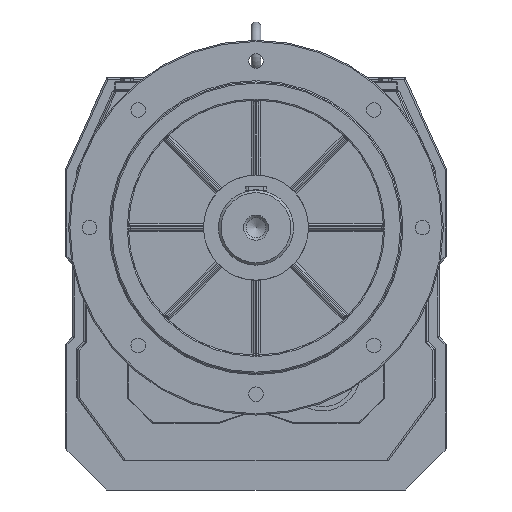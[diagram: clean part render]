
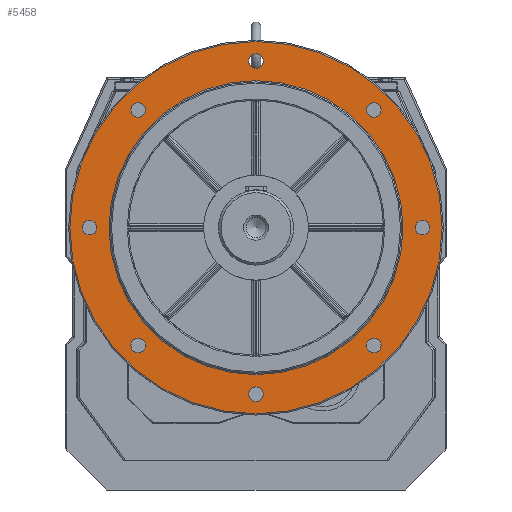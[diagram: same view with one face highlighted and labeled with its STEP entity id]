
A CAD part, front view. The second image highlights one B-rep face of the part: STEP entity #5458.
In plain terms, the highlighted planar face has unit normal (0, -1, 0).
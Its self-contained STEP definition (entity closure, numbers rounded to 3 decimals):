
#5336=CARTESIAN_POINT('',(0.0,-255.0,538.5));
#5337=VERTEX_POINT('',#5336);
#5338=CARTESIAN_POINT('',(0.0,-255.0,315.));
#5339=DIRECTION('',(0.0,1.0,0.0));
#5340=DIRECTION('',(0.0,0.0,-1.0));
#5341=AXIS2_PLACEMENT_3D('',#5338,#5339,#5340);
#5342=CIRCLE('',#5341,223.5);
#5343=EDGE_CURVE('',#5337,#5337,#5342,.T.);
#5351=CARTESIAN_POINT('',(0.0,-255.0,515.0));
#5352=DIRECTION('',(0.0,-1.0,0.0));
#5353=DIRECTION('',(0.0,0.0,-1.0));
#5354=AXIS2_PLACEMENT_3D('',#5351,#5352,#5353);
#5355=PLANE('',#5354);
#5356=ORIENTED_EDGE('',*,*,#5343,.F.);
#5357=EDGE_LOOP('',(#5356));
#5358=FACE_OUTER_BOUND('',#5357,.T.);
#5359=CARTESIAN_POINT('',(0.,-255.0,491.5));
#5360=VERTEX_POINT('',#5359);
#5361=CARTESIAN_POINT('',(0.0,-255.0,315.));
#5362=DIRECTION('',(0.0,-1.0,0.0));
#5363=DIRECTION('',(0.0,0.0,-1.0));
#5364=AXIS2_PLACEMENT_3D('',#5361,#5362,#5363);
#5365=CIRCLE('',#5364,176.5);
#5366=EDGE_CURVE('',#5360,#5360,#5365,.T.);
#5367=ORIENTED_EDGE('',*,*,#5366,.F.);
#5368=EDGE_LOOP('',(#5367));
#5369=FACE_BOUND('',#5368,.T.);
#5370=CARTESIAN_POINT('',(-191.25,-255.0,315.));
#5371=VERTEX_POINT('',#5370);
#5372=CARTESIAN_POINT('',(-200.,-255.0,315.));
#5373=DIRECTION('',(0.0,1.0,0.0));
#5374=DIRECTION('',(1.0,0.0,0.0));
#5375=AXIS2_PLACEMENT_3D('',#5372,#5373,#5374);
#5376=CIRCLE('',#5375,8.75);
#5377=EDGE_CURVE('',#5371,#5371,#5376,.T.);
#5378=ORIENTED_EDGE('',*,*,#5377,.T.);
#5379=EDGE_LOOP('',(#5378));
#5380=FACE_BOUND('',#5379,.T.);
#5381=CARTESIAN_POINT('',(-132.671,-255.0,456.421));
#5382=VERTEX_POINT('',#5381);
#5383=CARTESIAN_POINT('',(-141.421,-255.0,456.421));
#5384=DIRECTION('',(0.0,1.0,0.0));
#5385=DIRECTION('',(1.0,0.0,0.0));
#5386=AXIS2_PLACEMENT_3D('',#5383,#5384,#5385);
#5387=CIRCLE('',#5386,8.75);
#5388=EDGE_CURVE('',#5382,#5382,#5387,.T.);
#5389=ORIENTED_EDGE('',*,*,#5388,.T.);
#5390=EDGE_LOOP('',(#5389));
#5391=FACE_BOUND('',#5390,.T.);
#5392=CARTESIAN_POINT('',(8.75,-255.0,515.0));
#5393=VERTEX_POINT('',#5392);
#5394=CARTESIAN_POINT('',(0.0,-255.0,515.0));
#5395=DIRECTION('',(0.0,1.0,0.0));
#5396=DIRECTION('',(1.0,0.0,0.0));
#5397=AXIS2_PLACEMENT_3D('',#5394,#5395,#5396);
#5398=CIRCLE('',#5397,8.75);
#5399=EDGE_CURVE('',#5393,#5393,#5398,.T.);
#5400=ORIENTED_EDGE('',*,*,#5399,.T.);
#5401=EDGE_LOOP('',(#5400));
#5402=FACE_BOUND('',#5401,.T.);
#5403=CARTESIAN_POINT('',(150.171,-255.0,456.421));
#5404=VERTEX_POINT('',#5403);
#5405=CARTESIAN_POINT('',(141.421,-255.0,456.421));
#5406=DIRECTION('',(0.0,1.0,0.0));
#5407=DIRECTION('',(1.0,0.0,0.0));
#5408=AXIS2_PLACEMENT_3D('',#5405,#5406,#5407);
#5409=CIRCLE('',#5408,8.75);
#5410=EDGE_CURVE('',#5404,#5404,#5409,.T.);
#5411=ORIENTED_EDGE('',*,*,#5410,.T.);
#5412=EDGE_LOOP('',(#5411));
#5413=FACE_BOUND('',#5412,.T.);
#5414=CARTESIAN_POINT('',(208.75,-255.0,315.));
#5415=VERTEX_POINT('',#5414);
#5416=CARTESIAN_POINT('',(200.,-255.0,315.));
#5417=DIRECTION('',(0.0,1.0,0.0));
#5418=DIRECTION('',(1.0,0.0,0.0));
#5419=AXIS2_PLACEMENT_3D('',#5416,#5417,#5418);
#5420=CIRCLE('',#5419,8.75);
#5421=EDGE_CURVE('',#5415,#5415,#5420,.T.);
#5422=ORIENTED_EDGE('',*,*,#5421,.T.);
#5423=EDGE_LOOP('',(#5422));
#5424=FACE_BOUND('',#5423,.T.);
#5425=CARTESIAN_POINT('',(150.171,-255.0,173.579));
#5426=VERTEX_POINT('',#5425);
#5427=CARTESIAN_POINT('',(141.421,-255.0,173.579));
#5428=DIRECTION('',(0.0,1.0,0.0));
#5429=DIRECTION('',(1.0,0.0,0.0));
#5430=AXIS2_PLACEMENT_3D('',#5427,#5428,#5429);
#5431=CIRCLE('',#5430,8.75);
#5432=EDGE_CURVE('',#5426,#5426,#5431,.T.);
#5433=ORIENTED_EDGE('',*,*,#5432,.T.);
#5434=EDGE_LOOP('',(#5433));
#5435=FACE_BOUND('',#5434,.T.);
#5436=CARTESIAN_POINT('',(8.75,-255.0,115.));
#5437=VERTEX_POINT('',#5436);
#5438=CARTESIAN_POINT('',(0.0,-255.0,115.));
#5439=DIRECTION('',(0.0,1.0,0.0));
#5440=DIRECTION('',(1.0,0.0,0.0));
#5441=AXIS2_PLACEMENT_3D('',#5438,#5439,#5440);
#5442=CIRCLE('',#5441,8.75);
#5443=EDGE_CURVE('',#5437,#5437,#5442,.T.);
#5444=ORIENTED_EDGE('',*,*,#5443,.T.);
#5445=EDGE_LOOP('',(#5444));
#5446=FACE_BOUND('',#5445,.T.);
#5447=CARTESIAN_POINT('',(-132.671,-255.0,173.579));
#5448=VERTEX_POINT('',#5447);
#5449=CARTESIAN_POINT('',(-141.421,-255.0,173.579));
#5450=DIRECTION('',(0.0,1.0,0.0));
#5451=DIRECTION('',(1.0,0.0,0.0));
#5452=AXIS2_PLACEMENT_3D('',#5449,#5450,#5451);
#5453=CIRCLE('',#5452,8.75);
#5454=EDGE_CURVE('',#5448,#5448,#5453,.T.);
#5455=ORIENTED_EDGE('',*,*,#5454,.T.);
#5456=EDGE_LOOP('',(#5455));
#5457=FACE_BOUND('',#5456,.T.);
#5458=ADVANCED_FACE('',(#5358,#5369,#5380,#5391,#5402,#5413,#5424,#5435,#5446,#5457),#5355,.T.);
